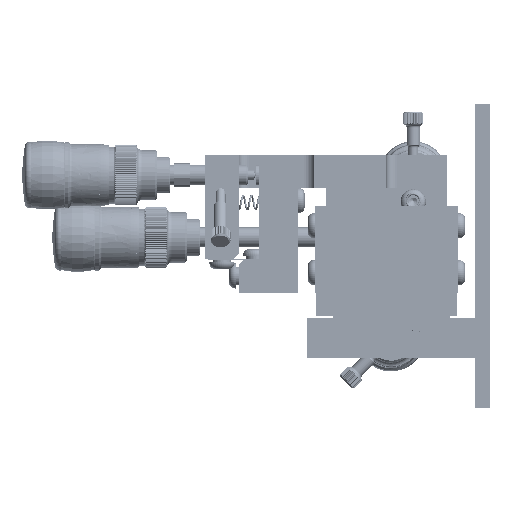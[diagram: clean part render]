
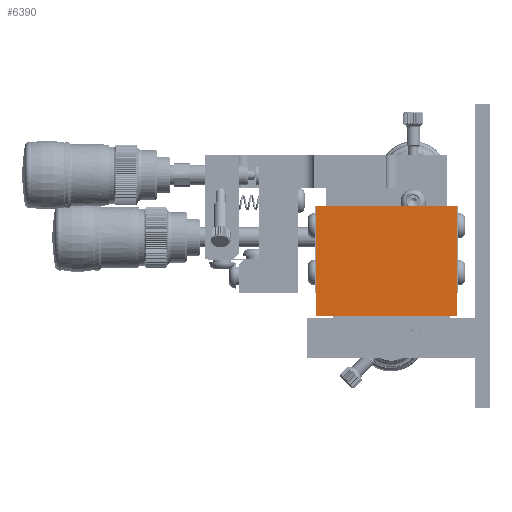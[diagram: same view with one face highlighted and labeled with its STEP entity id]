
A CAD part, left-side view. The second image highlights one B-rep face of the part: STEP entity #6390.
In plain terms, the highlighted planar face has unit normal (-1, 0, 0).
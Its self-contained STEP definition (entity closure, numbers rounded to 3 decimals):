
#3433 = EDGE_CURVE ( 'NONE', #88810, #29775, #41302, .T. ) ;
#3607 = EDGE_CURVE ( 'NONE', #51910, #81321, #33208, .T. ) ;
#5073 = PLANE ( 'NONE',  #23244 ) ;
#5395 = DIRECTION ( 'NONE',  ( 0., 0., 1. ) ) ;
#6390 = ADVANCED_FACE ( 'NONE', ( #81530 ), #5073, .F. ) ;
#7345 = VECTOR ( 'NONE', #90121, 1000. ) ;
#13804 = DIRECTION ( 'NONE',  ( 0., 0., -1. ) ) ;
#14810 = DIRECTION ( 'NONE',  ( 0., 0., 1. ) ) ;
#16064 = VECTOR ( 'NONE', #5395, 1000. ) ;
#20748 = CARTESIAN_POINT ( 'NONE',  ( 0., 33., 0. ) ) ;
#20963 = VECTOR ( 'NONE', #35573, 1000. ) ;
#23244 = AXIS2_PLACEMENT_3D ( 'NONE', #99894, #65761, #13804 ) ;
#26756 = VECTOR ( 'NONE', #14810, 1000. ) ;
#29775 = VERTEX_POINT ( 'NONE', #49443 ) ;
#31932 = CARTESIAN_POINT ( 'NONE',  ( 0., 33., 0. ) ) ;
#33208 = LINE ( 'NONE', #20748, #7345 ) ;
#34881 = LINE ( 'NONE', #31932, #26756 ) ;
#35573 = DIRECTION ( 'NONE',  ( 0., -1., 0. ) ) ;
#36420 = LINE ( 'NONE', #66068, #16064 ) ;
#39409 = CARTESIAN_POINT ( 'NONE',  ( 0., 0., 0. ) ) ;
#41302 = LINE ( 'NONE', #87496, #20963 ) ;
#42947 = ORIENTED_EDGE ( 'NONE', *, *, #3433, .T. ) ;
#46799 = CARTESIAN_POINT ( 'NONE',  ( 0., 33., 0. ) ) ;
#49443 = CARTESIAN_POINT ( 'NONE',  ( 0., 0., -42. ) ) ;
#51910 = VERTEX_POINT ( 'NONE', #46799 ) ;
#53091 = CARTESIAN_POINT ( 'NONE',  ( 0., 33., -42. ) ) ;
#65761 = DIRECTION ( 'NONE',  ( 1., 0., 0. ) ) ;
#66068 = CARTESIAN_POINT ( 'NONE',  ( 0., 0., 0. ) ) ;
#68946 = ORIENTED_EDGE ( 'NONE', *, *, #3607, .F. ) ;
#81321 = VERTEX_POINT ( 'NONE', #39409 ) ;
#81530 = FACE_OUTER_BOUND ( 'NONE', #98325, .T. ) ;
#84075 = ORIENTED_EDGE ( 'NONE', *, *, #108431, .T. ) ;
#87141 = EDGE_CURVE ( 'NONE', #88810, #51910, #34881, .T. ) ;
#87496 = CARTESIAN_POINT ( 'NONE',  ( 0., 33., -42. ) ) ;
#88810 = VERTEX_POINT ( 'NONE', #53091 ) ;
#90121 = DIRECTION ( 'NONE',  ( 0., -1., 0. ) ) ;
#98325 = EDGE_LOOP ( 'NONE', ( #84075, #68946, #104572, #42947 ) ) ;
#99894 = CARTESIAN_POINT ( 'NONE',  ( 0., 33., 0. ) ) ;
#104572 = ORIENTED_EDGE ( 'NONE', *, *, #87141, .F. ) ;
#108431 = EDGE_CURVE ( 'NONE', #29775, #81321, #36420, .T. ) ;
